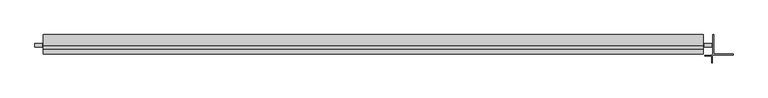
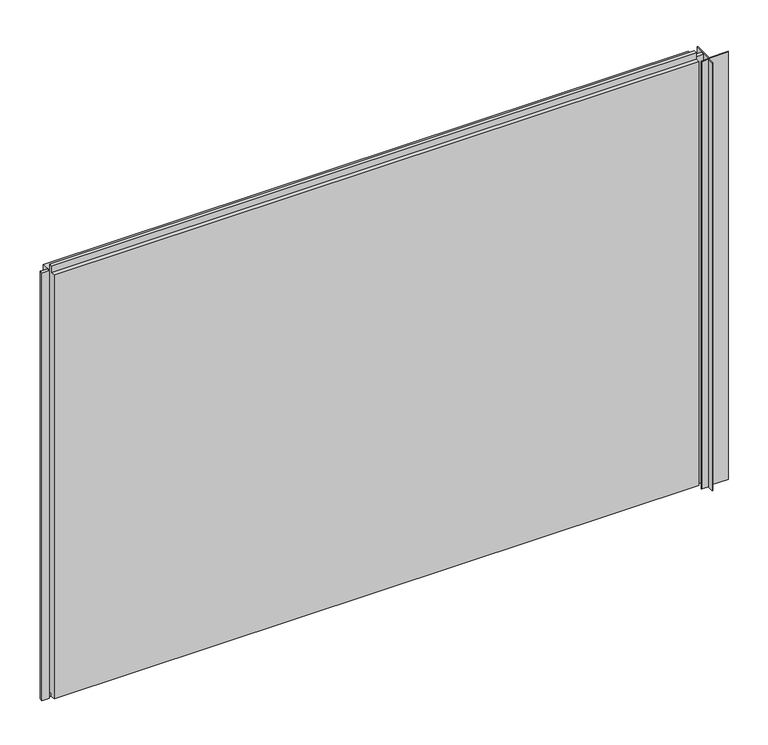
"""IFC4 building model written with IfcOpenShell, lengths in millimetres: plate geometry, Trimo_Qbiss Screen_Normal Panel-HORIZONTAL : HR - FB."""

from ifc_helpers import new_model, si_unit, frame, origin, place, context, project, spatial, polyline, outline, extrude, source, transform, mapped, element, save


def plate_c2ecfe3f(model_context):
    return source(origin(), model_context, "Body", "SweptSolid", [
        extrude(outline(polyline([(-840.5, 76.5978162), (-840.5, 67.8978162), (-859.5, 67.8978162), (-859.5, 76.5978162), (-840.5, 76.5978162)])), frame((0.0, 0.0, -1.0), z_axis=(0.0, 0.0, 1.0), x_axis=(1.0, 0.0, 0.0)), (0.0, 0.0, 1.0), 1200.0),
        extrude(outline(polyline([(876.0, 67.8978162), (876.0, 76.5978162), (895.0, 76.5978162), (895.0, 67.8978162), (876.0, 67.8978162)])), frame((0.0, 0.0, -1.0), z_axis=(0.0, 0.0, 1.0), x_axis=(1.0, 0.0, 0.0)), (0.0, 0.0, 1.0), 1200.0),
        extrude(outline(polyline([(71.0, 1196.0), (100.0, 1196.0), (100.0, 0.0), (72.0, 0.0), (72.0, 15.5), (62.0, 15.5), (62.0, 7.0), (50.0, 7.0), (50.0, 1196.0), (63.0, 1196.0), (63.0, 1214.5), (71.0, 1214.5), (71.0, 1196.0)])), frame((-837.5, 0.0, 0.0), z_axis=(1.0, 0.0, 0.0), x_axis=(0.0, 1.0, 0.0)), (0.0, 0.0, 1.0), 1710.5),
        extrude(outline(polyline([(898.0, 100.0), (900.0, 100.0), (900.0, 49.8183206), (950.2, 49.8183206), (950.2, 47.8183206), (899.4142136, 47.8183206), (896.6823429, 45.0864499), (896.6823429, 26.5864499), (894.6823429, 26.5864499), (894.6823429, 44.5006635), (876.7681293, 44.5006635), (876.7681293, 46.5006635), (895.2681293, 46.5006635), (898.0, 49.2325342), (898.0, 100.0)])), frame((0.0, 0.0, -1.0), z_axis=(0.0, 0.0, 1.0), x_axis=(1.0, 0.0, 0.0)), (0.0, 0.0, 1.0), 1200.0),
    ])


if __name__ == "__main__":
    model = new_model("IFC4")
    model_context = context("Model", 3, world=origin())
    ifc_project = project(units=[si_unit("LENGTHUNIT", "METRE", prefix="MILLI")], contexts=[model_context])
    site = spatial("IfcSite", under=ifc_project)
    building = spatial("IfcBuilding", under=site)
    placement = place(None, origin())
    plate_shape = plate_c2ecfe3f(model_context)
    element("IfcPlate", 1, ObjectType="Trimo_Qbiss Screen_Normal Panel-HORIZONTAL : HR - FB", at=placement, inside=building, context=model_context, shape_type="MappedRepresentation", body=[
        mapped(plate_shape, transform((0.0, 0.0, 0.0), x_axis=(1.0, 0.0, 0.0), y_axis=(0.0, 1.0, 0.0), z_axis=(0.0, 0.0, 1.0))),
    ])
    save(model, "model.ifc")
